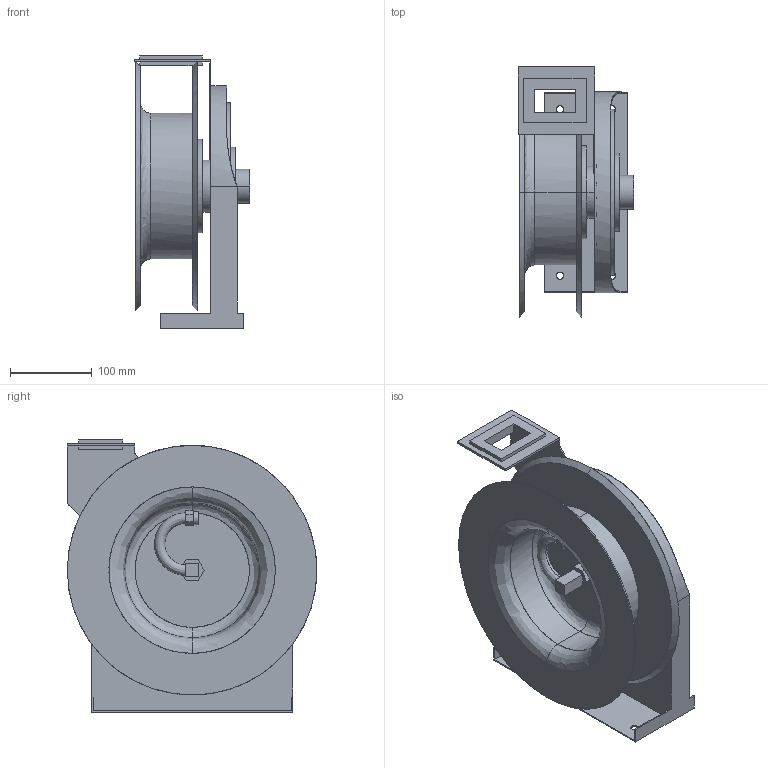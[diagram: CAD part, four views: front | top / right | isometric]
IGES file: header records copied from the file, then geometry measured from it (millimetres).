
Start section: Comment
Global section: file name: 4000 OXP TW.igs; native system:  By UGS Corp.; preprocessor: XPlus GENERIC/IGES 3.0; author: Author; organization: Title; date: 20120809.084830; units: millimetre
Bounding box: 141.53 x 305.15 x 332.44 mm (x, y, z)
Surface area: 593672.2 mm2 (no closed solid volume)
Topology: 0 solids, 0 shells, 139 faces, 668 edges, 668 vertices
Faces by surface type: bspline 139
